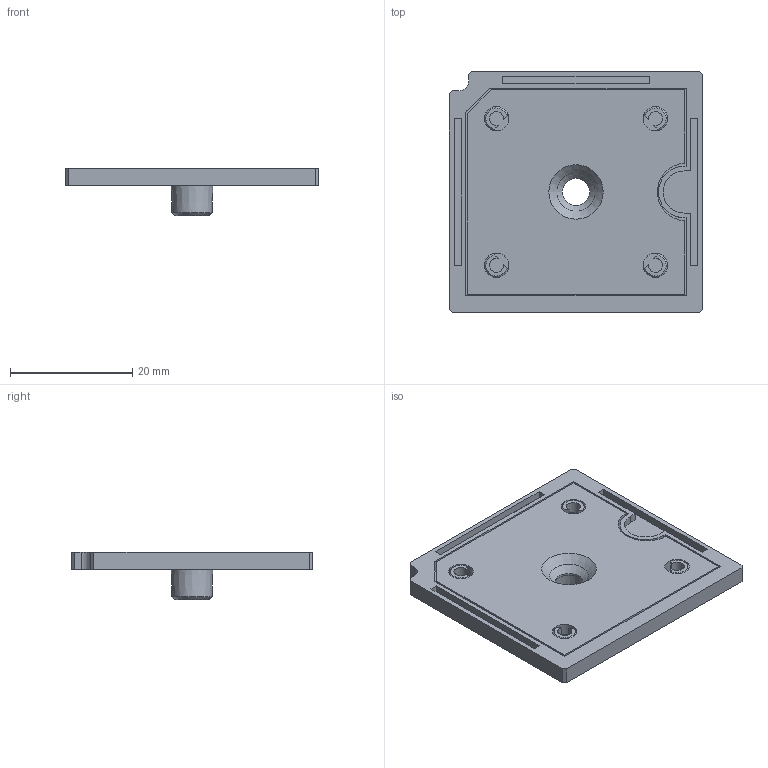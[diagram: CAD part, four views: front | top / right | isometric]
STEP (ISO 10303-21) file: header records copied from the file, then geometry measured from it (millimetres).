
FILE_DESCRIPTION(/* description */ ('Unknown','CAx-IF Rec.Pracs.---Representation and Presentation of Product Manufacturing Information (PMI)---4.0---2014-10-13','CAx-IF Rec.Pracs.---3D Tessellated Geometry---0.4---2014-09-14','2;1'),/* implementation_level */ '2;1');
FILE_NAME(/* name */ 'V23990-K13-T-02.1-27',/* time_stamp */ '2025-10-08T15:11:39+02:00',/* author */ ('Unknown'),/* organization */ ('Unknown'),/* preprocessor_version */ 'ST-DEVELOPER v20',/* originating_system */ 'Solid Edge',/* authorisation */ 'Unknown');
FILE_SCHEMA (('AP242_MANAGED_MODEL_BASED_3D_ENGINEERING_MIM_LF { 1 0 10303 442 1 1 4 }'));
Length unit declared in the file: millimetre
Products named in the file (3): NEW MiniSKiiP 2nd Generation Slim Lid Size 1_25121050; kunstoffdeckel flach 1; 41350170
Assembly tree (2 placements, depth 2):
  NEW MiniSKiiP 2nd Generation Slim Lid Size 1_25121050
    kunstoffdeckel flach 1
    41350170
Bounding box: 41.5 x 39.5 x 7.8 mm (x, y, z)
Volume: 4239.9 mm3; surface area: 7060 mm2
Topology: 2 solids, 2 shells, 317 faces, 760 edges, 450 vertices
Faces by surface type: bspline 128, plane 79, cylinder 51, torus 42, cone 17
Full cylindrical faces by diameter (mm): 4 x4, 4.5 x1, 10 x1, 12 x1
Entity records: 10854 total; most frequent: CARTESIAN_POINT 4334, ORIENTED_EDGE 1468, DIRECTION 1156, EDGE_CURVE 734, AXIS2_PLACEMENT_3D 476, VERTEX_POINT 446, EDGE_LOOP 354, FACE_BOUND 354
